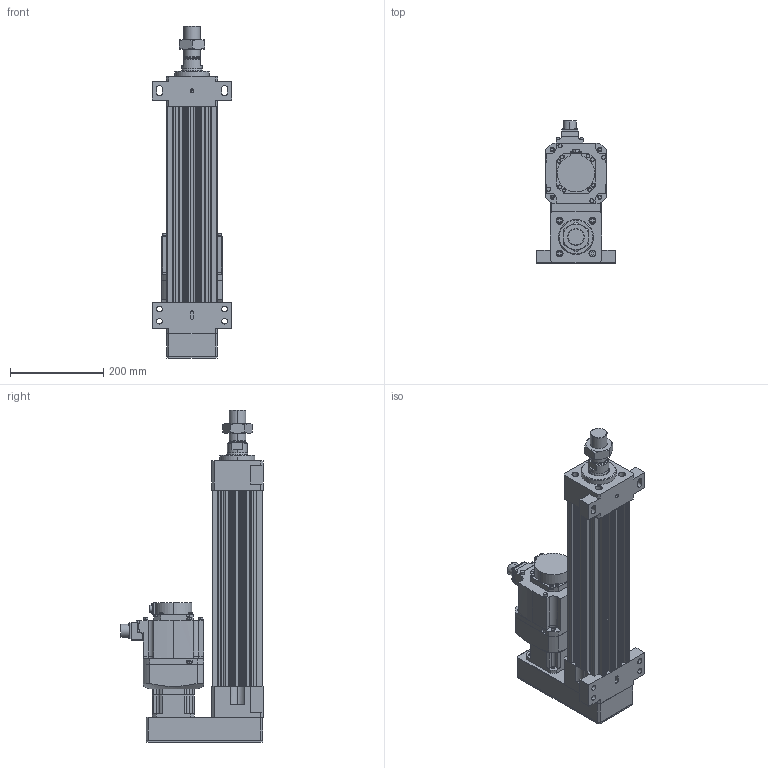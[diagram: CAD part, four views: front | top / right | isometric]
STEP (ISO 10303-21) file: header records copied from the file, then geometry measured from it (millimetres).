
FILE_DESCRIPTION (( 'STEP AP203' ), '1' );
FILE_NAME ('HES110NS(HS)-P250-W010G00-M-FFB.STEP', '2023-01-26T08:53:28', ( 'tms' ), ( '' ), 'SwSTEP 2.0', 'SolidWorks 2013', '' );
FILE_SCHEMA (( 'CONFIG_CONTROL_DESIGN' ));
Length unit declared in the file: millimetre
Products named in the file (8): HES110 ROD M ST250; M36X1.5P; HG-SR102; AB090-003[HG-SR102B]; HES110NS(HS)-P250-W010G00-M-FFB; HES110-P250-G090-FFB; P0401301004; AB0901
Assembly tree (7 placements, depth 3):
  HES110NS(HS)-P250-W010G00-M-FFB
    HES110-P250-G090-FFB
    AB090-003[HG-SR102B]
      AB0901
      P0401301004
    HG-SR102
    HES110 ROD M ST250
    M36X1.5P
Bounding box: 170 x 304.99 x 713 mm (x, y, z)
Volume: 7165332.6 mm3; surface area: 881783.3 mm2
Topology: 4 solids, 11 shells, 1083 faces, 2775 edges, 1806 vertices
Faces by surface type: cylinder 501, plane 500, cone 70, bspline 8, torus 4
Entity records: 34904 total; most frequent: CARTESIAN_POINT 6854, DIRECTION 5982, ORIENTED_EDGE 5502, EDGE_CURVE 2761, AXIS2_PLACEMENT_3D 2205, VERTEX_POINT 1806, LINE 1572, VECTOR 1572
